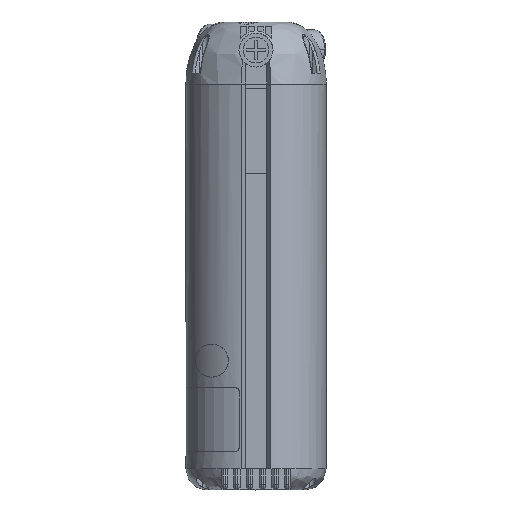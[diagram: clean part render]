
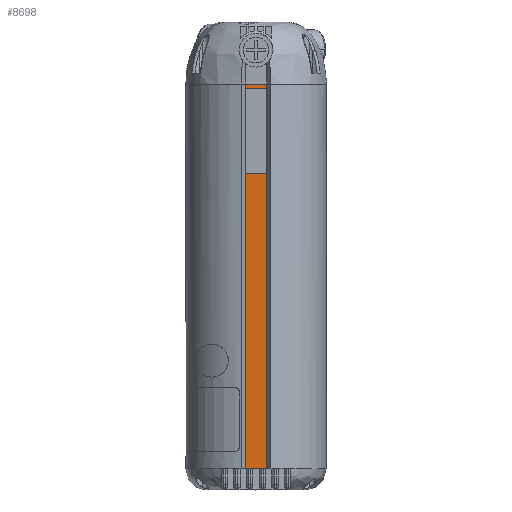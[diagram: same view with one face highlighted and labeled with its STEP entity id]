
A CAD part, top view. The second image highlights one B-rep face of the part: STEP entity #8698.
In plain terms, the highlighted planar face has unit normal (0, 0, 1).
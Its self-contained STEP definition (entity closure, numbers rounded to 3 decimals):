
#83 = EDGE_LOOP ( 'NONE', ( #2755, #9723, #9247, #7755 ) ) ;
#135 = VECTOR ( 'NONE', #2712, 1000. ) ;
#208 = DIRECTION ( 'NONE',  ( 0., -1., 0. ) ) ;
#348 = VECTOR ( 'NONE', #9812, 1000. ) ;
#401 = VERTEX_POINT ( 'NONE', #6315 ) ;
#631 = DIRECTION ( 'NONE',  ( 0., -1., 0. ) ) ;
#775 = CARTESIAN_POINT ( 'NONE',  ( 4.95, 10.65, 29.249 ) ) ;
#1185 = VECTOR ( 'NONE', #6253, 1000. ) ;
#1212 = CARTESIAN_POINT ( 'NONE',  ( 5., 52.65, 29.249 ) ) ;
#1233 = EDGE_CURVE ( 'NONE', #1654, #12416, #4677, .T. ) ;
#1251 = DIRECTION ( 'NONE',  ( 0., 0., -1. ) ) ;
#1494 = CARTESIAN_POINT ( 'NONE',  ( -5., 50.65, 29.249 ) ) ;
#1538 = CARTESIAN_POINT ( 'NONE',  ( 5., -138.15, 29.249 ) ) ;
#1653 = LINE ( 'NONE', #5061, #135 ) ;
#1654 = VERTEX_POINT ( 'NONE', #2019 ) ;
#1838 = VECTOR ( 'NONE', #208, 1000. ) ;
#1937 = ORIENTED_EDGE ( 'NONE', *, *, #2882, .F. ) ;
#2019 = CARTESIAN_POINT ( 'NONE',  ( -5., 52.65, 29.249 ) ) ;
#2061 = EDGE_CURVE ( 'NONE', #401, #6744, #1653, .T. ) ;
#2120 = PLANE ( 'NONE',  #2203 ) ;
#2203 = AXIS2_PLACEMENT_3D ( 'NONE', #6920, #1251, #5195 ) ;
#2323 = VECTOR ( 'NONE', #5602, 1000. ) ;
#2712 = DIRECTION ( 'NONE',  ( 1., 0., 0. ) ) ;
#2755 = ORIENTED_EDGE ( 'NONE', *, *, #8203, .T. ) ;
#2780 = CARTESIAN_POINT ( 'NONE',  ( 4.95, -138.15, 29.249 ) ) ;
#2882 = EDGE_CURVE ( 'NONE', #6744, #4803, #9746, .T. ) ;
#3619 = LINE ( 'NONE', #11495, #5540 ) ;
#4227 = CARTESIAN_POINT ( 'NONE',  ( 5., -128.15, 29.249 ) ) ;
#4677 = LINE ( 'NONE', #8584, #5127 ) ;
#4803 = VERTEX_POINT ( 'NONE', #9298 ) ;
#5061 = CARTESIAN_POINT ( 'NONE',  ( -5., 10.65, 29.249 ) ) ;
#5127 = VECTOR ( 'NONE', #9404, 1000. ) ;
#5156 = CARTESIAN_POINT ( 'NONE',  ( -4.95, 50.65, 29.249 ) ) ;
#5195 = DIRECTION ( 'NONE',  ( -1., 0., 0. ) ) ;
#5540 = VECTOR ( 'NONE', #631, 1000. ) ;
#5602 = DIRECTION ( 'NONE',  ( 0., 1., 0. ) ) ;
#5812 = CARTESIAN_POINT ( 'NONE',  ( -5., -128.15, 29.249 ) ) ;
#5835 = EDGE_CURVE ( 'NONE', #6345, #12416, #7466, .T. ) ;
#6253 = DIRECTION ( 'NONE',  ( -1., 0., 0. ) ) ;
#6292 = CARTESIAN_POINT ( 'NONE',  ( 0., -128.15, 29.249 ) ) ;
#6315 = CARTESIAN_POINT ( 'NONE',  ( -4.95, 10.65, 29.249 ) ) ;
#6345 = VERTEX_POINT ( 'NONE', #4227 ) ;
#6365 = DIRECTION ( 'NONE',  ( 1., 0., 0. ) ) ;
#6744 = VERTEX_POINT ( 'NONE', #775 ) ;
#6920 = CARTESIAN_POINT ( 'NONE',  ( -5., -138.15, 29.249 ) ) ;
#7105 = FACE_BOUND ( 'NONE', #12103, .T. ) ;
#7305 = ORIENTED_EDGE ( 'NONE', *, *, #2061, .F. ) ;
#7466 = LINE ( 'NONE', #1538, #2323 ) ;
#7755 = ORIENTED_EDGE ( 'NONE', *, *, #10127, .T. ) ;
#8203 = EDGE_CURVE ( 'NONE', #11176, #6345, #9440, .T. ) ;
#8584 = CARTESIAN_POINT ( 'NONE',  ( 0., 52.65, 29.249 ) ) ;
#8698 = ADVANCED_FACE ( 'NONE', ( #7105, #9997 ), #2120, .F. ) ;
#9247 = ORIENTED_EDGE ( 'NONE', *, *, #1233, .F. ) ;
#9298 = CARTESIAN_POINT ( 'NONE',  ( 4.95, 50.65, 29.249 ) ) ;
#9404 = DIRECTION ( 'NONE',  ( 1., 0., 0. ) ) ;
#9440 = LINE ( 'NONE', #6292, #11863 ) ;
#9723 = ORIENTED_EDGE ( 'NONE', *, *, #5835, .T. ) ;
#9746 = LINE ( 'NONE', #2780, #348 ) ;
#9794 = EDGE_CURVE ( 'NONE', #4803, #10256, #10292, .T. ) ;
#9812 = DIRECTION ( 'NONE',  ( 0., 1., 0. ) ) ;
#9997 = FACE_OUTER_BOUND ( 'NONE', #83, .T. ) ;
#10127 = EDGE_CURVE ( 'NONE', #1654, #11176, #11960, .T. ) ;
#10256 = VERTEX_POINT ( 'NONE', #5156 ) ;
#10292 = LINE ( 'NONE', #1494, #1185 ) ;
#10595 = EDGE_CURVE ( 'NONE', #10256, #401, #3619, .T. ) ;
#10618 = ORIENTED_EDGE ( 'NONE', *, *, #10595, .F. ) ;
#10847 = CARTESIAN_POINT ( 'NONE',  ( -5., -138.15, 29.249 ) ) ;
#11176 = VERTEX_POINT ( 'NONE', #5812 ) ;
#11495 = CARTESIAN_POINT ( 'NONE',  ( -4.95, -138.15, 29.249 ) ) ;
#11583 = ORIENTED_EDGE ( 'NONE', *, *, #9794, .F. ) ;
#11863 = VECTOR ( 'NONE', #6365, 1000. ) ;
#11960 = LINE ( 'NONE', #10847, #1838 ) ;
#12103 = EDGE_LOOP ( 'NONE', ( #10618, #11583, #1937, #7305 ) ) ;
#12416 = VERTEX_POINT ( 'NONE', #1212 ) ;
